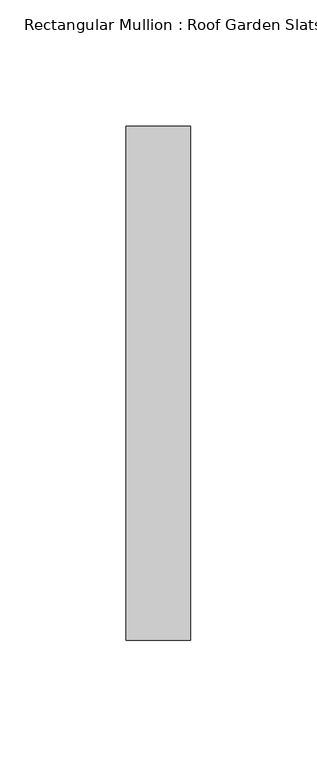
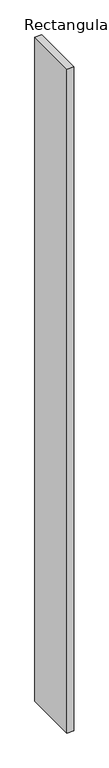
"""IFC4 building model written with IfcOpenShell, lengths in millimetres: member geometry, Rectangular Mullion : Roof Garden Slats."""

from ifc_helpers import new_model, si_unit, frame, origin, place, context, project, spatial, polyline, outline, extrude, source, transform, mapped, element, save


def rectangular_mullion_roof_garden_slats_15b111f0(model_context):
    return source(origin(), model_context, "Body", "SweptSolid", [
        extrude(outline(polyline([(12.7, 139.7), (12.7, -63.5), (-12.7, -63.5), (-12.7, 139.7), (12.7, 139.7)])), frame((0.0, 0.0, -2570.9000722), z_axis=(0.0, 0.0, 1.0), x_axis=(1.0, 0.0, 0.0)), (0.0, 0.0, 1.0), 2570.9000722),
    ])


if __name__ == "__main__":
    model = new_model("IFC4")
    model_context = context("Model", 3, world=origin())
    ifc_project = project(units=[si_unit("LENGTHUNIT", "METRE", prefix="MILLI")], contexts=[model_context])
    site = spatial("IfcSite", under=ifc_project)
    building = spatial("IfcBuilding", under=site)
    placement = place(None, origin())
    rectangular_mullion_roof_garden_slats_shape = rectangular_mullion_roof_garden_slats_15b111f0(model_context)
    element("IfcMember", 1, ObjectType="Rectangular Mullion : Roof Garden Slats", at=placement, inside=building, context=model_context, shape_type="MappedRepresentation", body=[
        mapped(rectangular_mullion_roof_garden_slats_shape, transform((0.0, 0.0, 0.0), x_axis=(1.0, 0.0, 0.0), y_axis=(0.0, 1.0, 0.0), z_axis=(0.0, 0.0, 1.0))),
    ])
    save(model, "model.ifc")
